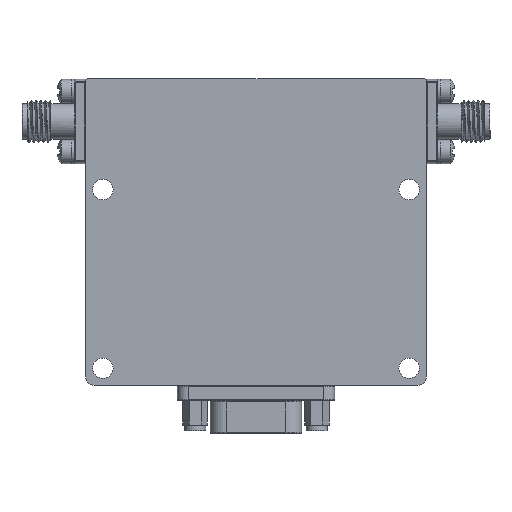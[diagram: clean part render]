
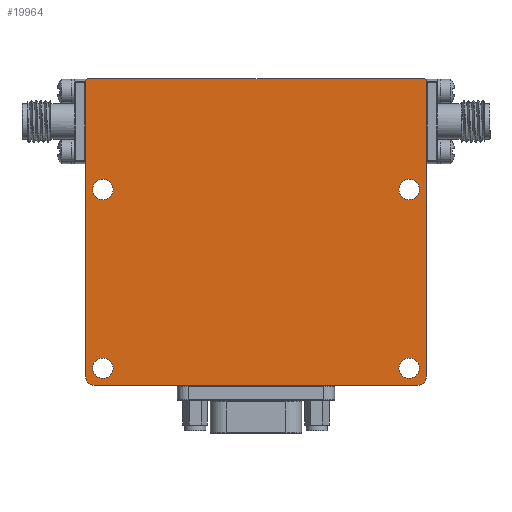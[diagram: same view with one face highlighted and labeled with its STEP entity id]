
A CAD part, front view. The second image highlights one B-rep face of the part: STEP entity #19964.
In plain terms, the highlighted planar face has unit normal (0, -1, 0).
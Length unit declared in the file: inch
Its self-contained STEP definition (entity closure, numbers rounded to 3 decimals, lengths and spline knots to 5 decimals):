
#176 = CARTESIAN_POINT ( 'NONE',  ( 1.99, -0.5, -0.01 ) ) ;
#965 = CARTESIAN_POINT ( 'NONE',  ( 0.01, -0.5, -0.01 ) ) ;
#1286 = EDGE_LOOP ( 'NONE', ( #52409 ) ) ;
#1917 = DIRECTION ( 'NONE',  ( 1., 0., 0. ) ) ;
#2115 = CARTESIAN_POINT ( 'NONE',  ( 0.01, -0.5, 0. ) ) ;
#2988 = DIRECTION ( 'NONE',  ( 0., 1., 0. ) ) ;
#3078 = DIRECTION ( 'NONE',  ( 0., 1., 0. ) ) ;
#3823 = CARTESIAN_POINT ( 'NONE',  ( 0.1, -0.5, -1.7 ) ) ;
#5922 = AXIS2_PLACEMENT_3D ( 'NONE', #3823, #3078, #27473 ) ;
#6280 = DIRECTION ( 'NONE',  ( 0., 0., -1. ) ) ;
#6722 = VERTEX_POINT ( 'NONE', #63061 ) ;
#6778 = CARTESIAN_POINT ( 'NONE',  ( 0.1, -0.5, -1.64 ) ) ;
#7599 = EDGE_LOOP ( 'NONE', ( #71893 ) ) ;
#7856 = DIRECTION ( 'NONE',  ( 1., 0., 0. ) ) ;
#8185 = VERTEX_POINT ( 'NONE', #30280 ) ;
#8531 = LINE ( 'NONE', #31778, #24305 ) ;
#10203 = AXIS2_PLACEMENT_3D ( 'NONE', #15107, #49787, #36866 ) ;
#10793 = AXIS2_PLACEMENT_3D ( 'NONE', #965, #36421, #64934 ) ;
#10949 = VERTEX_POINT ( 'NONE', #46780 ) ;
#11256 = CARTESIAN_POINT ( 'NONE',  ( 0.05, -0.5, -1.75 ) ) ;
#11696 = ORIENTED_EDGE ( 'NONE', *, *, #56196, .T. ) ;
#13475 = EDGE_CURVE ( 'NONE', #10949, #41695, #28454, .T. ) ;
#15107 = CARTESIAN_POINT ( 'NONE',  ( 1.99, -0.5, -0.01 ) ) ;
#16374 = CARTESIAN_POINT ( 'NONE',  ( 0.05, -0.5, -1.8 ) ) ;
#16404 = DIRECTION ( 'NONE',  ( 0., -1., 0. ) ) ;
#16413 = CARTESIAN_POINT ( 'NONE',  ( 2., -0.5, -1.75 ) ) ;
#16933 = EDGE_CURVE ( 'NONE', #6722, #8185, #46156, .T. ) ;
#17508 = DIRECTION ( 'NONE',  ( 0., 0., -1. ) ) ;
#17706 = DIRECTION ( 'NONE',  ( 0., 0., 1. ) ) ;
#18340 = VERTEX_POINT ( 'NONE', #30542 ) ;
#19945 = EDGE_CURVE ( 'NONE', #69565, #69565, #26064, .T. ) ;
#19964 = ADVANCED_FACE ( 'NONE', ( #38013, #54715, #61201, #21187, #32274 ), #69086, .F. ) ;
#20537 = DIRECTION ( 'NONE',  ( 0., 0., 1. ) ) ;
#20932 = CIRCLE ( 'NONE', #63482, 0.05 ) ;
#21187 = FACE_BOUND ( 'NONE', #7599, .T. ) ;
#21744 = DIRECTION ( 'NONE',  ( 0., 0., -1. ) ) ;
#21790 = ORIENTED_EDGE ( 'NONE', *, *, #34875, .F. ) ;
#22131 = ORIENTED_EDGE ( 'NONE', *, *, #44513, .T. ) ;
#22864 = ORIENTED_EDGE ( 'NONE', *, *, #16933, .T. ) ;
#23414 = VECTOR ( 'NONE', #21744, 39.37008 ) ;
#23775 = DIRECTION ( 'NONE',  ( 0., -1., 0. ) ) ;
#24019 = VERTEX_POINT ( 'NONE', #16413 ) ;
#24305 = VECTOR ( 'NONE', #49321, 39.37008 ) ;
#25131 = DIRECTION ( 'NONE',  ( 0., 1., 0. ) ) ;
#25689 = VERTEX_POINT ( 'NONE', #48958 ) ;
#25788 = VERTEX_POINT ( 'NONE', #6778 ) ;
#26064 = CIRCLE ( 'NONE', #32165, 0.06 ) ;
#26919 = DIRECTION ( 'NONE',  ( 0., 1., 0. ) ) ;
#27261 = AXIS2_PLACEMENT_3D ( 'NONE', #176, #46726, #17706 ) ;
#27473 = DIRECTION ( 'NONE',  ( 0., 0., 1. ) ) ;
#28454 = CIRCLE ( 'NONE', #10203, 0.01 ) ;
#28692 = CIRCLE ( 'NONE', #34801, 0.05 ) ;
#30280 = CARTESIAN_POINT ( 'NONE',  ( 0., -0.5, -1.75 ) ) ;
#30359 = AXIS2_PLACEMENT_3D ( 'NONE', #36606, #25131, #20537 ) ;
#30542 = CARTESIAN_POINT ( 'NONE',  ( 0.01, -0.5, 0. ) ) ;
#30666 = VECTOR ( 'NONE', #7856, 39.37008 ) ;
#31778 = CARTESIAN_POINT ( 'NONE',  ( 2., -0.5, -0.01 ) ) ;
#31875 = EDGE_CURVE ( 'NONE', #18340, #6722, #53306, .T. ) ;
#32011 = CARTESIAN_POINT ( 'NONE',  ( 1.95, -0.5, -1.8 ) ) ;
#32165 = AXIS2_PLACEMENT_3D ( 'NONE', #49047, #26919, #72159 ) ;
#32274 = FACE_OUTER_BOUND ( 'NONE', #73410, .T. ) ;
#32786 = CIRCLE ( 'NONE', #30359, 0.06 ) ;
#33899 = EDGE_CURVE ( 'NONE', #25788, #25788, #50950, .T. ) ;
#34801 = AXIS2_PLACEMENT_3D ( 'NONE', #69996, #16404, #17508 ) ;
#34846 = ORIENTED_EDGE ( 'NONE', *, *, #48121, .F. ) ;
#34875 = EDGE_CURVE ( 'NONE', #41695, #24019, #8531, .T. ) ;
#35729 = LINE ( 'NONE', #2115, #30666 ) ;
#36421 = DIRECTION ( 'NONE',  ( 0., -1., 0. ) ) ;
#36606 = CARTESIAN_POINT ( 'NONE',  ( 1.9, -0.5, -0.65 ) ) ;
#36866 = DIRECTION ( 'NONE',  ( 0., 0., 1. ) ) ;
#38013 = FACE_BOUND ( 'NONE', #61839, .T. ) ;
#38754 = CARTESIAN_POINT ( 'NONE',  ( 2., -0.5, -0.01 ) ) ;
#39647 = ORIENTED_EDGE ( 'NONE', *, *, #13475, .F. ) ;
#40611 = ORIENTED_EDGE ( 'NONE', *, *, #19945, .T. ) ;
#41096 = CARTESIAN_POINT ( 'NONE',  ( 1.9, -0.5, -1.64 ) ) ;
#41695 = VERTEX_POINT ( 'NONE', #38754 ) ;
#41748 = VERTEX_POINT ( 'NONE', #42113 ) ;
#42113 = CARTESIAN_POINT ( 'NONE',  ( 0.1, -0.5, -0.59 ) ) ;
#43060 = AXIS2_PLACEMENT_3D ( 'NONE', #50242, #2988, #43800 ) ;
#43590 = ORIENTED_EDGE ( 'NONE', *, *, #63878, .T. ) ;
#43800 = DIRECTION ( 'NONE',  ( 0., 0., 1. ) ) ;
#44297 = EDGE_LOOP ( 'NONE', ( #40611 ) ) ;
#44513 = EDGE_CURVE ( 'NONE', #8185, #46799, #20932, .T. ) ;
#46156 = LINE ( 'NONE', #56425, #23414 ) ;
#46726 = DIRECTION ( 'NONE',  ( 0., 1., 0. ) ) ;
#46780 = CARTESIAN_POINT ( 'NONE',  ( 1.99, -0.5, 0. ) ) ;
#46799 = VERTEX_POINT ( 'NONE', #16374 ) ;
#48121 = EDGE_CURVE ( 'NONE', #18340, #10949, #35729, .T. ) ;
#48958 = CARTESIAN_POINT ( 'NONE',  ( 1.9, -0.5, -0.59 ) ) ;
#49047 = CARTESIAN_POINT ( 'NONE',  ( 1.9, -0.5, -1.7 ) ) ;
#49321 = DIRECTION ( 'NONE',  ( 0., 0., -1. ) ) ;
#49787 = DIRECTION ( 'NONE',  ( 0., 1., 0. ) ) ;
#50242 = CARTESIAN_POINT ( 'NONE',  ( 0.1, -0.5, -0.65 ) ) ;
#50950 = CIRCLE ( 'NONE', #5922, 0.06 ) ;
#52409 = ORIENTED_EDGE ( 'NONE', *, *, #73101, .T. ) ;
#53306 = CIRCLE ( 'NONE', #10793, 0.01 ) ;
#54715 = FACE_BOUND ( 'NONE', #44297, .T. ) ;
#54870 = CARTESIAN_POINT ( 'NONE',  ( 0.05, -0.5, -1.8 ) ) ;
#56196 = EDGE_CURVE ( 'NONE', #75370, #24019, #28692, .T. ) ;
#56425 = CARTESIAN_POINT ( 'NONE',  ( 0., -0.5, -0.01 ) ) ;
#61201 = FACE_BOUND ( 'NONE', #1286, .T. ) ;
#61839 = EDGE_LOOP ( 'NONE', ( #63897 ) ) ;
#63061 = CARTESIAN_POINT ( 'NONE',  ( 0., -0.5, -0.01 ) ) ;
#63482 = AXIS2_PLACEMENT_3D ( 'NONE', #11256, #23775, #6280 ) ;
#63878 = EDGE_CURVE ( 'NONE', #46799, #75370, #66243, .T. ) ;
#63897 = ORIENTED_EDGE ( 'NONE', *, *, #33899, .T. ) ;
#64596 = VECTOR ( 'NONE', #1917, 39.37008 ) ;
#64934 = DIRECTION ( 'NONE',  ( 0., 0., -1. ) ) ;
#66003 = EDGE_CURVE ( 'NONE', #41748, #41748, #73349, .T. ) ;
#66243 = LINE ( 'NONE', #54870, #64596 ) ;
#66375 = ORIENTED_EDGE ( 'NONE', *, *, #31875, .T. ) ;
#69086 = PLANE ( 'NONE',  #27261 ) ;
#69565 = VERTEX_POINT ( 'NONE', #41096 ) ;
#69996 = CARTESIAN_POINT ( 'NONE',  ( 1.95, -0.5, -1.75 ) ) ;
#71893 = ORIENTED_EDGE ( 'NONE', *, *, #66003, .T. ) ;
#72159 = DIRECTION ( 'NONE',  ( 0., 0., 1. ) ) ;
#73101 = EDGE_CURVE ( 'NONE', #25689, #25689, #32786, .T. ) ;
#73349 = CIRCLE ( 'NONE', #43060, 0.06 ) ;
#73410 = EDGE_LOOP ( 'NONE', ( #39647, #34846, #66375, #22864, #22131, #43590, #11696, #21790 ) ) ;
#75370 = VERTEX_POINT ( 'NONE', #32011 ) ;
